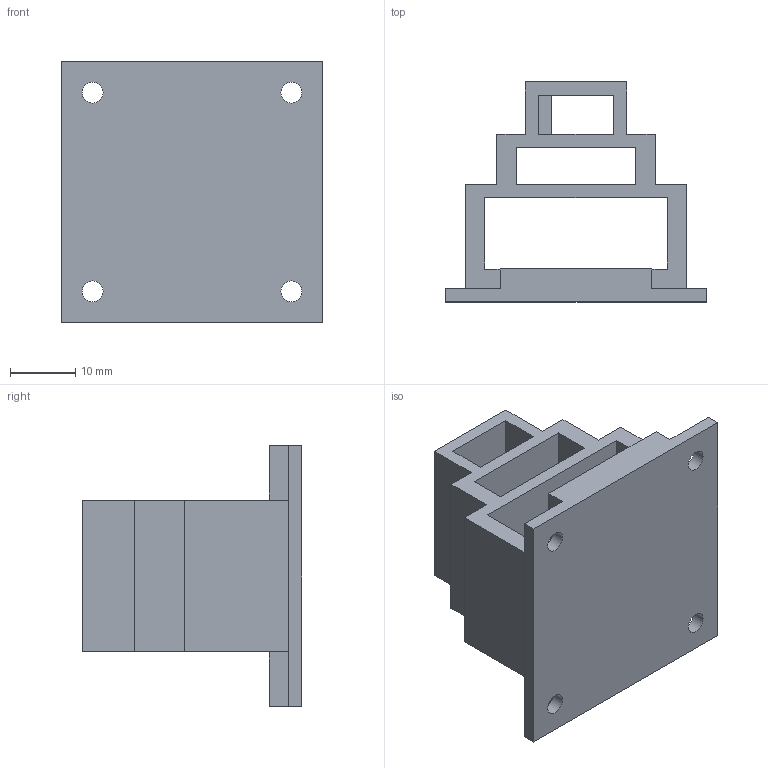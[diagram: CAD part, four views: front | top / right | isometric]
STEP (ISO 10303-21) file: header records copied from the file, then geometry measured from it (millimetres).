
FILE_DESCRIPTION(/* description */ ('STEP AP242','CAx-IF Rec.Pracs.---Representation and Presentation of Product Manufacturing Information (PMI)---4.0---2014-10-13','CAx-IF Rec.Pracs.---3D Tessellated Geometry---0.4---2014-09-14','2;1'),/* implementation_level */ '2;1');
FILE_NAME(/* name */ '679badd95e1bcc04624b91dd',/* time_stamp */ '2025-01-30T16:50:34Z',/* author */ (''),/* organization */ (''),/* preprocessor_version */ 'ST-DEVELOPER v20',/* originating_system */ 'ONSHAPE BY PTC INC, 1.192',/* authorisation */ ' ');
FILE_SCHEMA (('AP242_MANAGED_MODEL_BASED_3D_ENGINEERING_MIM_LF { 1 0 10303 442 1 1 4 }'));
Length unit declared in the file: metre
Products named in the file (1): Porte ESP
Bounding box: 40 x 33.7 x 40 mm (x, y, z)
Volume: 13100.1 mm3; surface area: 9607.2 mm2
Topology: 1 solids, 1 shells, 42 faces, 126 edges, 84 vertices
Faces by surface type: plane 38, cylinder 4
Full cylindrical faces by diameter (mm): 3.2 x4
Entity records: 1428 total; most frequent: CARTESIAN_POINT 249, ORIENTED_EDGE 244, DIRECTION 216, EDGE_CURVE 122, LINE 114, VECTOR 114, VERTEX_POINT 84, EDGE_LOOP 58
